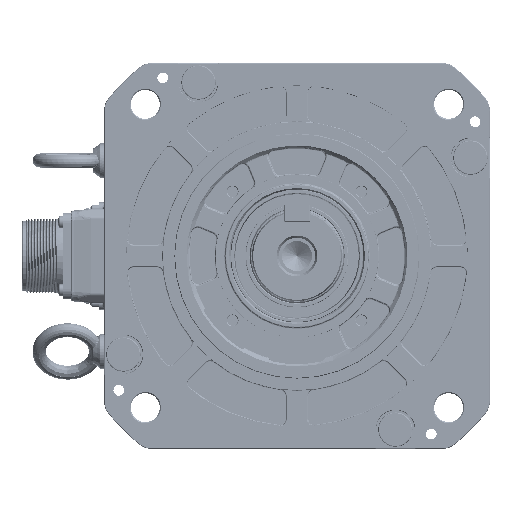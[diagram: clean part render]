
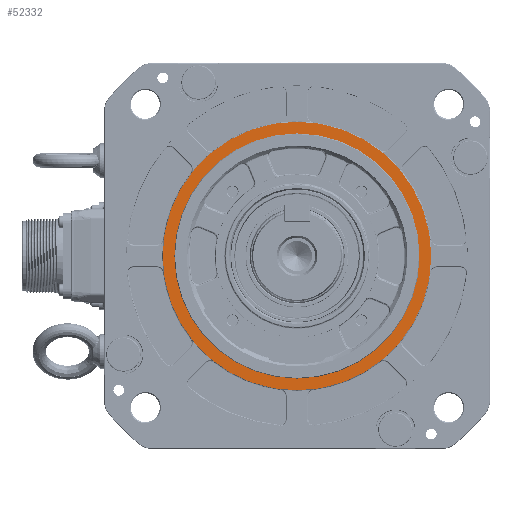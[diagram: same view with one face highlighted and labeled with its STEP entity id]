
A CAD part, left-side view. The second image highlights one B-rep face of the part: STEP entity #52332.
In plain terms, the highlighted planar face has unit normal (-1, 0, 0).
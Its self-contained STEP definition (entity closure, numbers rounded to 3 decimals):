
#81 = VERTEX_POINT ( 'NONE', #76633 ) ;
#1174 = ORIENTED_EDGE ( 'NONE', *, *, #6402, .T. ) ;
#3877 = CIRCLE ( 'NONE', #68519, 62.616 ) ;
#6402 = EDGE_CURVE ( 'NONE', #81, #81, #3877, .T. ) ;
#6432 = DIRECTION ( 'NONE',  ( -1., 0., 0. ) ) ;
#7152 = CARTESIAN_POINT ( 'NONE',  ( 3.7, 0., 0. ) ) ;
#16565 = AXIS2_PLACEMENT_3D ( 'NONE', #7152, #6432, #39625 ) ;
#21241 = DIRECTION ( 'NONE',  ( 0., 0., -1. ) ) ;
#34068 = EDGE_CURVE ( 'NONE', #98117, #98117, #67273, .T. ) ;
#39625 = DIRECTION ( 'NONE',  ( 0., 0., 1. ) ) ;
#52332 = ADVANCED_FACE ( 'NONE', ( #102940, #118565 ), #117848, .F. ) ;
#67273 = CIRCLE ( 'NONE', #16565, 57.15 ) ;
#68519 = AXIS2_PLACEMENT_3D ( 'NONE', #94183, #138211, #21241 ) ;
#72805 = EDGE_LOOP ( 'NONE', ( #1174 ) ) ;
#74580 = DIRECTION ( 'NONE',  ( 0., 0., -1. ) ) ;
#76633 = CARTESIAN_POINT ( 'NONE',  ( 3.7, 0., -62.616 ) ) ;
#84118 = ORIENTED_EDGE ( 'NONE', *, *, #34068, .F. ) ;
#88004 = CARTESIAN_POINT ( 'NONE',  ( 3.7, 0., 57.15 ) ) ;
#94183 = CARTESIAN_POINT ( 'NONE',  ( 3.7, 0., 0. ) ) ;
#96209 = DIRECTION ( 'NONE',  ( 1., 0., 0. ) ) ;
#98117 = VERTEX_POINT ( 'NONE', #88004 ) ;
#102940 = FACE_OUTER_BOUND ( 'NONE', #72805, .T. ) ;
#114457 = CARTESIAN_POINT ( 'NONE',  ( 3.7, 0., 0. ) ) ;
#115324 = AXIS2_PLACEMENT_3D ( 'NONE', #114457, #96209, #74580 ) ;
#117848 = PLANE ( 'NONE',  #115324 ) ;
#118565 = FACE_BOUND ( 'NONE', #123515, .T. ) ;
#123515 = EDGE_LOOP ( 'NONE', ( #84118 ) ) ;
#138211 = DIRECTION ( 'NONE',  ( -1., 0., 0. ) ) ;
